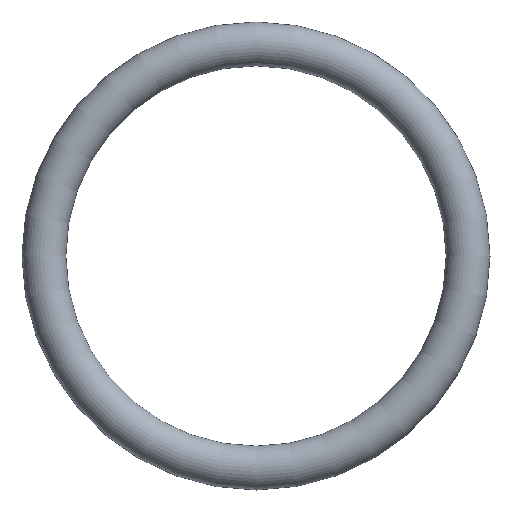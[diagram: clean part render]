
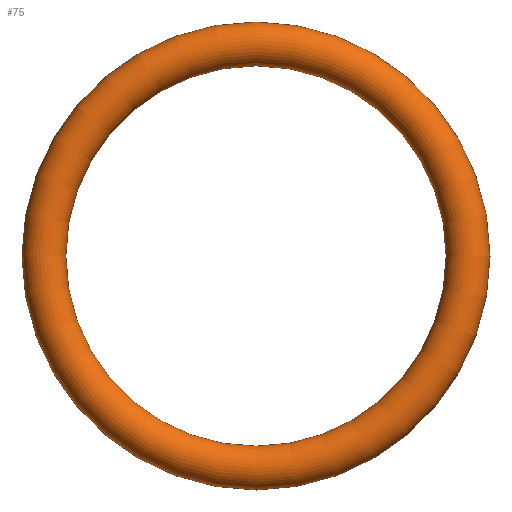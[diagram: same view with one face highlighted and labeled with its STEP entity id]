
A CAD part, front view. The second image highlights one B-rep face of the part: STEP entity #75.
In plain terms, the highlighted toroidal (fillet/blend) face has major radius 14.5 mm and minor radius 1.5 mm.
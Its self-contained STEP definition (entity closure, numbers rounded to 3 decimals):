
#75 = ADVANCED_FACE( '', ( #77 ), #78, .T. );
#77 = FACE_BOUND( '', #79, .T. );
#78 = TOROIDAL_SURFACE( '', #80, 14.5, 1.5 );
#79 = VERTEX_LOOP( '', #81 );
#80 = AXIS2_PLACEMENT_3D( '', #82, #83, #84 );
#81 = VERTEX_POINT( '', #85 );
#82 = CARTESIAN_POINT( '', ( 0., 0., 0. ) );
#83 = DIRECTION( '', ( 0., -1., 0. ) );
#84 = DIRECTION( '', ( 0., 0., -1. ) );
#85 = CARTESIAN_POINT( '', ( 0., 0., -16. ) );
